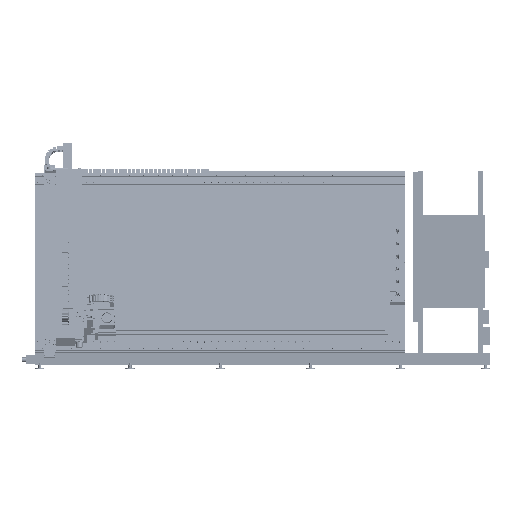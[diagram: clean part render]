
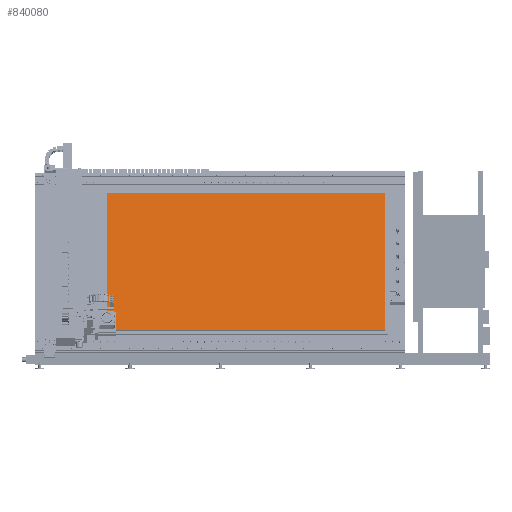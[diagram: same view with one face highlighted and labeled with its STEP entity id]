
A CAD part, front view. The second image highlights one B-rep face of the part: STEP entity #840080.
In plain terms, the highlighted planar face has unit normal (0, -0.985, 0.174).
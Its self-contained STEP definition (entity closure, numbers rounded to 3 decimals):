
#839948=CARTESIAN_POINT('',(2400.0,-24.62,330.591));
#839949=VERTEX_POINT('',#839948);
#839956=CARTESIAN_POINT('',(0.0,-24.62,330.591));
#839957=VERTEX_POINT('',#839956);
#839958=CARTESIAN_POINT('',(0.0,-24.62,330.591));
#839959=DIRECTION('',(1.0,0.0,0.0));
#839960=VECTOR('',#839959,1.);
#839961=LINE('',#839958,#839960);
#839962=EDGE_CURVE('',#839957,#839949,#839961,.T.);
#839986=CARTESIAN_POINT('',(2400.0,183.758,1512.361));
#839987=VERTEX_POINT('',#839986);
#839994=CARTESIAN_POINT('',(2400.0,-24.62,330.591));
#839995=DIRECTION('',(0.,0.174,0.985));
#839996=VECTOR('',#839995,1.);
#839997=LINE('',#839994,#839996);
#839998=EDGE_CURVE('',#839949,#839987,#839997,.T.);
#840017=CARTESIAN_POINT('',(0.0,183.758,1512.361));
#840018=VERTEX_POINT('',#840017);
#840025=CARTESIAN_POINT('',(2400.0,183.758,1512.361));
#840026=DIRECTION('',(-1.0,0.,0.));
#840027=VECTOR('',#840026,1.);
#840028=LINE('',#840025,#840027);
#840029=EDGE_CURVE('',#839987,#840018,#840028,.T.);
#840047=CARTESIAN_POINT('',(0.0,183.758,1512.361));
#840048=DIRECTION('',(0.,-0.174,-0.985));
#840049=VECTOR('',#840048,1.);
#840050=LINE('',#840047,#840049);
#840051=EDGE_CURVE('',#840018,#839957,#840050,.T.);
#840069=CARTESIAN_POINT('',(0.0,-24.62,330.591));
#840070=DIRECTION('',(0.0,-0.985,0.174));
#840071=DIRECTION('',(1.0,0.0,0.0));
#840072=AXIS2_PLACEMENT_3D('',#840069,#840070,#840071);
#840073=PLANE('',#840072);
#840074=ORIENTED_EDGE('',*,*,#839962,.T.);
#840075=ORIENTED_EDGE('',*,*,#839998,.T.);
#840076=ORIENTED_EDGE('',*,*,#840029,.T.);
#840077=ORIENTED_EDGE('',*,*,#840051,.T.);
#840078=EDGE_LOOP('',(#840074,#840075,#840076,#840077));
#840079=FACE_BOUND('',#840078,.T.);
#840080=ADVANCED_FACE('',(#840079),#840073,.T.);
